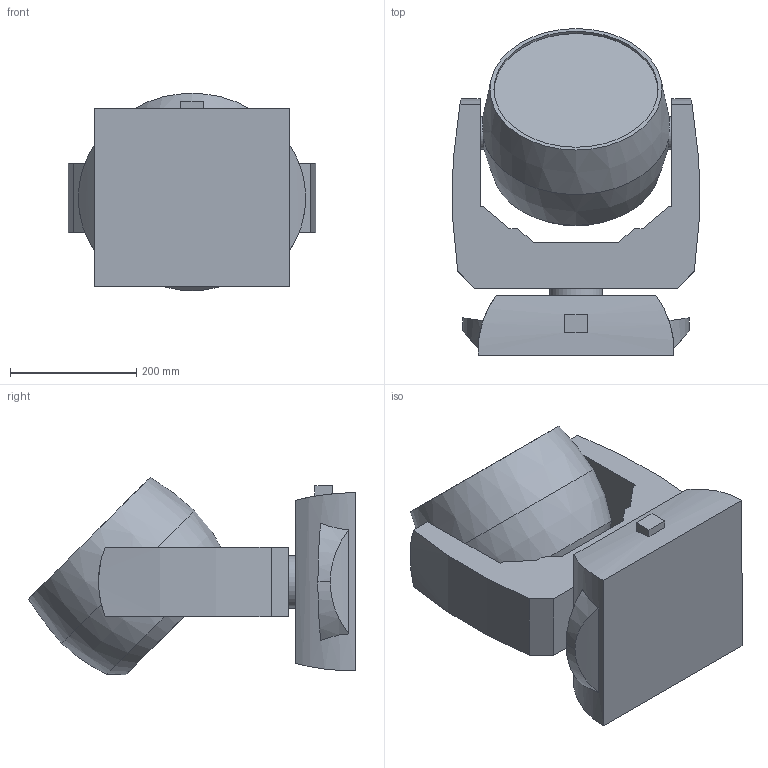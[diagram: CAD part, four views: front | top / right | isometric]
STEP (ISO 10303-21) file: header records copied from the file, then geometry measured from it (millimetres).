
FILE_DESCRIPTION(/* description */ (''),/* implementation_level */ '2;1');
FILE_NAME(/* name */ 'C:\Users\dgooch\Documents\CADENG\PRO\Rogue R3X Wash\Rogue R3X Wash_3D_CAD\Rogue R3X Wash_45.stp',/* time_stamp */ '2022-03-28T09:41:31-04:00',/* author */ ('dgooch'),/* organization */ (''),/* preprocessor_version */ 'ST-DEVELOPER v18.1',/* originating_system */ 'Autodesk Inventor 2022',/* authorisation */ '');
FILE_SCHEMA (('AUTOMOTIVE_DESIGN { 1 0 10303 214 3 1 1 }'));
Length unit declared in the file: millimetre
Products named in the file (4): Rogue R3X Wash_45; Head (1); Arm (1); Base (1)
Assembly tree (3 placements, depth 2):
  Rogue R3X Wash_45
    Head (1)
    Arm (1)
    Base (1)
Bounding box: 392.23 x 518.22 x 313.05 mm (x, y, z)
Volume: 25496233.3 mm3; surface area: 943358.9 mm2
Topology: 3 solids, 3 shells, 52 faces, 124 edges, 82 vertices
Faces by surface type: plane 30, cylinder 19, bspline 2, cone 1
Full cylindrical faces by diameter (mm): 52 x2, 83 x2, 260.299 x1
Entity records: 1982 total; most frequent: CARTESIAN_POINT 615, ORIENTED_EDGE 248, DIRECTION 246, EDGE_CURVE 124, AXIS2_PLACEMENT_3D 85, VERTEX_POINT 82, LINE 76, VECTOR 76
